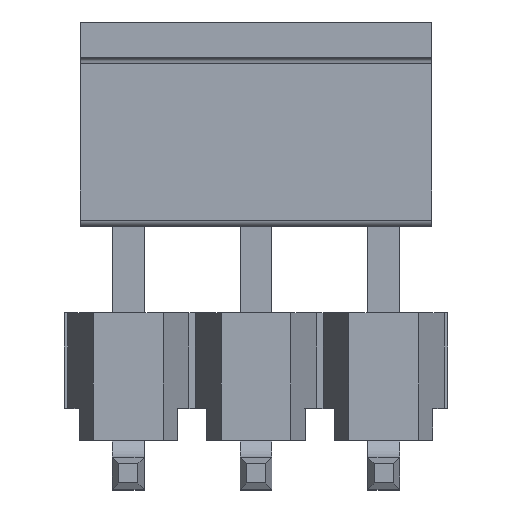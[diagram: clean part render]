
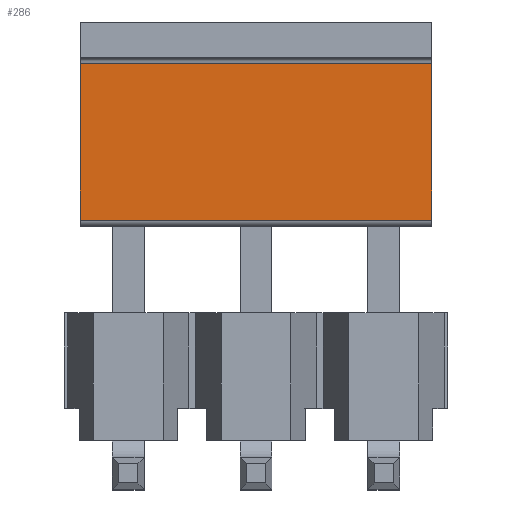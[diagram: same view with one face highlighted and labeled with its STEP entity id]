
A CAD part, top view. The second image highlights one B-rep face of the part: STEP entity #286.
In plain terms, the highlighted planar face has unit normal (0, 0, 1) as drawn and (-1, 0, 0) by its records, which use the part's own axes.
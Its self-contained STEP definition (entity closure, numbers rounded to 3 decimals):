
#268 = EDGE_CURVE ( 'NONE', #4337, #397, #1943, .T. ) ;
#286 = ADVANCED_FACE ( 'NONE', ( #4651 ), #2296, .F. ) ;
#397 = VERTEX_POINT ( 'NONE', #2549 ) ;
#437 = AXIS2_PLACEMENT_3D ( 'NONE', #2287, #2310, #2325 ) ;
#639 = EDGE_LOOP ( 'NONE', ( #4300, #1832, #2518, #3952 ) ) ;
#1167 = CARTESIAN_POINT ( 'NONE',  ( -37.227, 36.102, 2.75 ) ) ;
#1462 = VERTEX_POINT ( 'NONE', #1167 ) ;
#1694 = LINE ( 'NONE', #2520, #2539 ) ;
#1832 = ORIENTED_EDGE ( 'NONE', *, *, #268, .F. ) ;
#1943 = LINE ( 'NONE', #2202, #3697 ) ;
#2062 = EDGE_CURVE ( 'NONE', #1462, #4337, #4688, .T. ) ;
#2202 = CARTESIAN_POINT ( 'NONE',  ( -37.227, 33.652, 2.75 ) ) ;
#2204 = DIRECTION ( 'NONE',  ( 0., -1., 0. ) ) ;
#2260 = DIRECTION ( 'NONE',  ( 0., 0., -1. ) ) ;
#2287 = CARTESIAN_POINT ( 'NONE',  ( -37.227, 36.102, 2.75 ) ) ;
#2296 = PLANE ( 'NONE',  #437 ) ;
#2310 = DIRECTION ( 'NONE',  ( 1., 0., 0. ) ) ;
#2325 = DIRECTION ( 'NONE',  ( 0., 0., -1. ) ) ;
#2361 = VERTEX_POINT ( 'NONE', #4141 ) ;
#2518 = ORIENTED_EDGE ( 'NONE', *, *, #2062, .F. ) ;
#2520 = CARTESIAN_POINT ( 'NONE',  ( -37.227, 36.102, 2.75 ) ) ;
#2539 = VECTOR ( 'NONE', #4718, 1000. ) ;
#2549 = CARTESIAN_POINT ( 'NONE',  ( -37.227, 33.652, -2.75 ) ) ;
#2612 = LINE ( 'NONE', #4439, #4576 ) ;
#3364 = CARTESIAN_POINT ( 'NONE',  ( -37.227, 36.102, 2.75 ) ) ;
#3386 = DIRECTION ( 'NONE',  ( 0., -1., 0. ) ) ;
#3509 = EDGE_CURVE ( 'NONE', #2361, #397, #2612, .T. ) ;
#3697 = VECTOR ( 'NONE', #2260, 1000. ) ;
#3840 = CARTESIAN_POINT ( 'NONE',  ( -37.227, 33.652, 2.75 ) ) ;
#3952 = ORIENTED_EDGE ( 'NONE', *, *, #4596, .T. ) ;
#4141 = CARTESIAN_POINT ( 'NONE',  ( -37.227, 36.102, -2.75 ) ) ;
#4300 = ORIENTED_EDGE ( 'NONE', *, *, #3509, .T. ) ;
#4337 = VERTEX_POINT ( 'NONE', #3840 ) ;
#4439 = CARTESIAN_POINT ( 'NONE',  ( -37.227, 36.102, -2.75 ) ) ;
#4576 = VECTOR ( 'NONE', #2204, 1000. ) ;
#4583 = VECTOR ( 'NONE', #3386, 1000. ) ;
#4596 = EDGE_CURVE ( 'NONE', #1462, #2361, #1694, .T. ) ;
#4651 = FACE_OUTER_BOUND ( 'NONE', #639, .T. ) ;
#4688 = LINE ( 'NONE', #3364, #4583 ) ;
#4718 = DIRECTION ( 'NONE',  ( 0., 0., -1. ) ) ;
